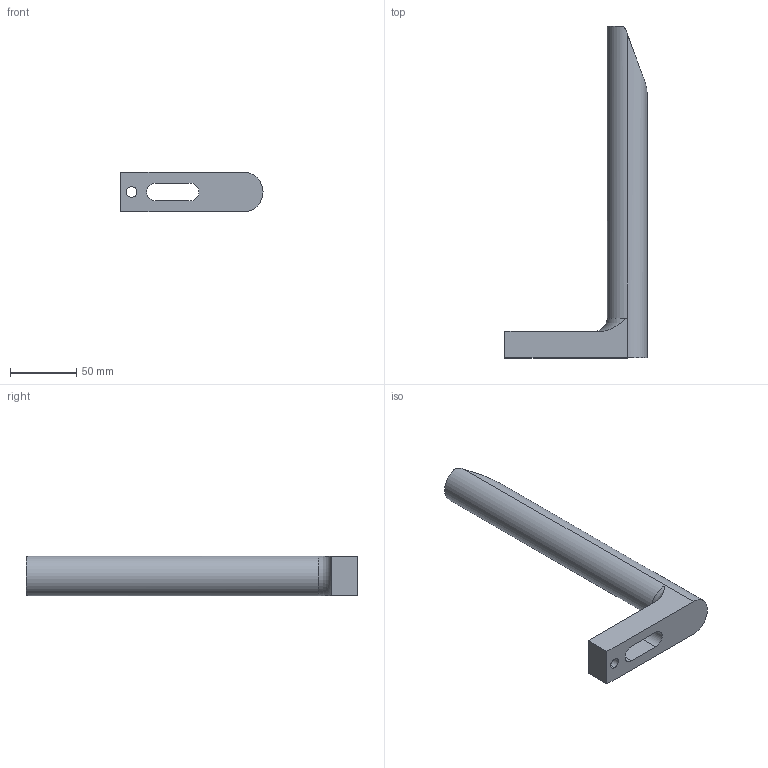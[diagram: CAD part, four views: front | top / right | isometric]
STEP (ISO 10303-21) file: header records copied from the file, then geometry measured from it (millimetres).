
FILE_DESCRIPTION(('CATIA V5 STEP Exchange'),'2;1');
FILE_NAME('C:\Users\Raffaele\Desktop\3D X SITO CF\702-705\GSB_OILLESS_M30101250\STEP-2.03\702-7.stp','2019-07-03T14:48:54+00:00',('none'),('none'),'CATIA Version 5 Release 20 GA (IN-10)','CATIA V5 STEP AP203','none');
FILE_SCHEMA(('CONFIG_CONTROL_DESIGN'));
Length unit declared in the file: millimetre
Products named in the file (1): 702-7
Bounding box: 107 x 250 x 30 mm (x, y, z)
Volume: 206409.1 mm3; surface area: 33587.2 mm2
Topology: 1 solids, 1 shells, 18 faces, 52 edges, 36 vertices
Faces by surface type: plane 9, cylinder 8, torus 1
Entity records: 745 total; most frequent: CARTESIAN_POINT 236, ORIENTED_EDGE 104, DIRECTION 77, EDGE_CURVE 52, VERTEX_POINT 36, AXIS2_PLACEMENT_3D 35, VECTOR 25, LINE 25
